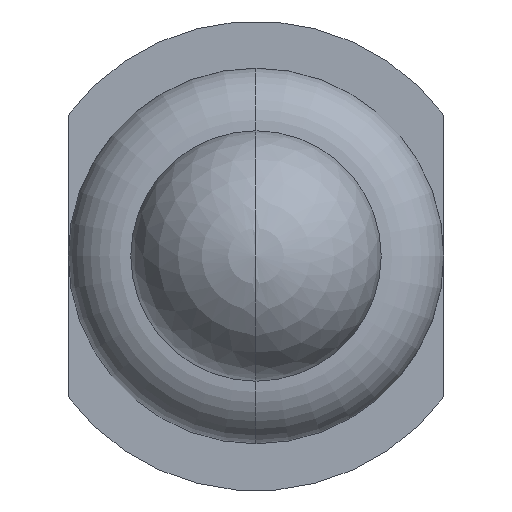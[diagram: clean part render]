
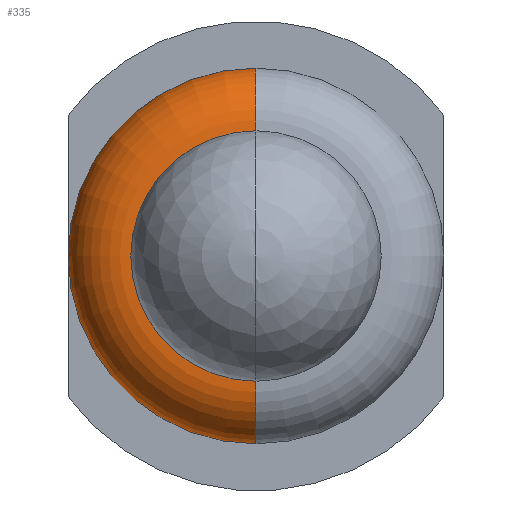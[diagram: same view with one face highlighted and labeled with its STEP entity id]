
A CAD part, left-side view. The second image highlights one B-rep face of the part: STEP entity #335.
In plain terms, the highlighted toroidal (fillet/blend) face has major radius 0.4 mm and minor radius 0.2 mm.
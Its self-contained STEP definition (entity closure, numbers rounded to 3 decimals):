
#89=CARTESIAN_POINT('',(-2.3,0.,0.));
#90=DIRECTION('',(1.,0.,0.));
#91=DIRECTION('',(0.,0.,-1.));
#92=AXIS2_PLACEMENT_3D('',#89,#90,#91);
#94=CARTESIAN_POINT('',(-2.3,0.,-0.4));
#95=DIRECTION('',(0.,1.,0.));
#96=DIRECTION('',(0.,0.,-1.));
#97=AXIS2_PLACEMENT_3D('',#94,#95,#96);
#99=CARTESIAN_POINT('',(-2.3,0.,0.4));
#100=DIRECTION('',(0.,-1.,0.));
#101=DIRECTION('',(0.,0.,1.));
#102=AXIS2_PLACEMENT_3D('',#99,#100,#101);
#122=CARTESIAN_POINT('',(-2.5,0.,0.));
#123=DIRECTION('',(1.,0.,0.));
#124=DIRECTION('',(0.,0.,-1.));
#125=AXIS2_PLACEMENT_3D('',#122,#123,#124);
#148=CARTESIAN_POINT('',(-2.3,0.,-0.6));
#150=VERTEX_POINT('',#148);
#151=CARTESIAN_POINT('',(-2.5,0.,-0.4));
#152=VERTEX_POINT('',#151);
#158=CARTESIAN_POINT('',(-2.3,0.,0.6));
#160=VERTEX_POINT('',#158);
#161=CARTESIAN_POINT('',(-2.5,0.,0.4));
#162=VERTEX_POINT('',#161);
#321=CARTESIAN_POINT('',(-2.3,0.,0.));
#322=DIRECTION('',(1.,0.,0.));
#323=DIRECTION('',(0.,0.,1.));
#324=AXIS2_PLACEMENT_3D('',#321,#322,#323);
#325=TOROIDAL_SURFACE('',#324,0.4,0.2);
#327=ORIENTED_EDGE('',*,*,#326,.F.);
#328=ORIENTED_EDGE('',*,*,#315,.T.);
#330=ORIENTED_EDGE('',*,*,#329,.T.);
#332=ORIENTED_EDGE('',*,*,#331,.F.);
#333=EDGE_LOOP('',(#327,#328,#330,#332));
#334=FACE_OUTER_BOUND('',#333,.F.);
#335=ADVANCED_FACE('',(#334),#325,.T.);
#93=CIRCLE('',#92,0.6);
#98=CIRCLE('',#97,0.2);
#103=CIRCLE('',#102,0.2);
#126=CIRCLE('',#125,0.4);
#315=EDGE_CURVE('',#150,#160,#93,.T.);
#326=EDGE_CURVE('',#150,#152,#98,.T.);
#329=EDGE_CURVE('',#160,#162,#103,.T.);
#331=EDGE_CURVE('',#152,#162,#126,.T.);
